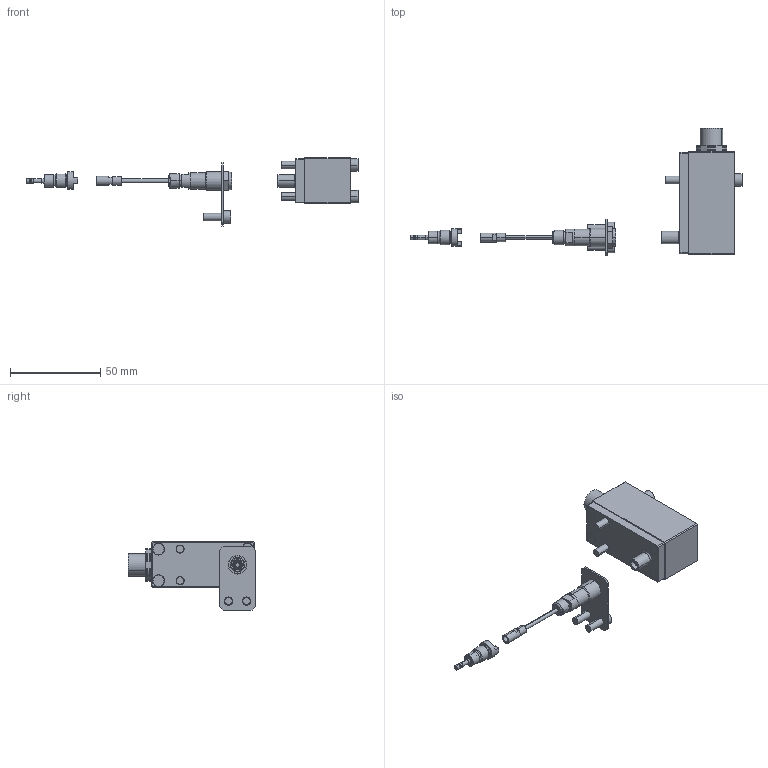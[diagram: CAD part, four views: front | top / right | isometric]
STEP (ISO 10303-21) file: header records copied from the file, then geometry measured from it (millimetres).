
FILE_DESCRIPTION (( 'STEP AP203' ), '1' );
FILE_NAME ('6159 Single Channel.STEP', '2024-07-16T18:44:25', ( '' ), ( '' ), 'SwSTEP 2.0', 'SolidWorks 2023', '' );
FILE_SCHEMA (( 'CONFIG_CONTROL_DESIGN' ));
Length unit declared in the file: millimetre
Products named in the file (5): 6159 Body; 6159 Single Channel; 2.5 mm O-Ring; LP-F-25-30K; 6159 Sensor Body
Assembly tree (4 placements, depth 3):
  6159 Single Channel
    LP-F-25-30K
    6159 Sensor Body
      6159 Body
      2.5 mm O-Ring
Bounding box: 183.54 x 70.34 x 37.7 mm (x, y, z)
Volume: 49800.5 mm3; surface area: 17191 mm2
Topology: 15 solids, 21 shells, 2145 faces, 5852 edges, 3864 vertices
Faces by surface type: cylinder 1081, plane 762, bspline 234, cone 60, torus 8
Entity records: 87385 total; most frequent: CARTESIAN_POINT 32022, ORIENTED_EDGE 11704, DIRECTION 11501, EDGE_CURVE 5852, AXIS2_PLACEMENT_3D 4208, VERTEX_POINT 3864, LINE 3085, VECTOR 3085
